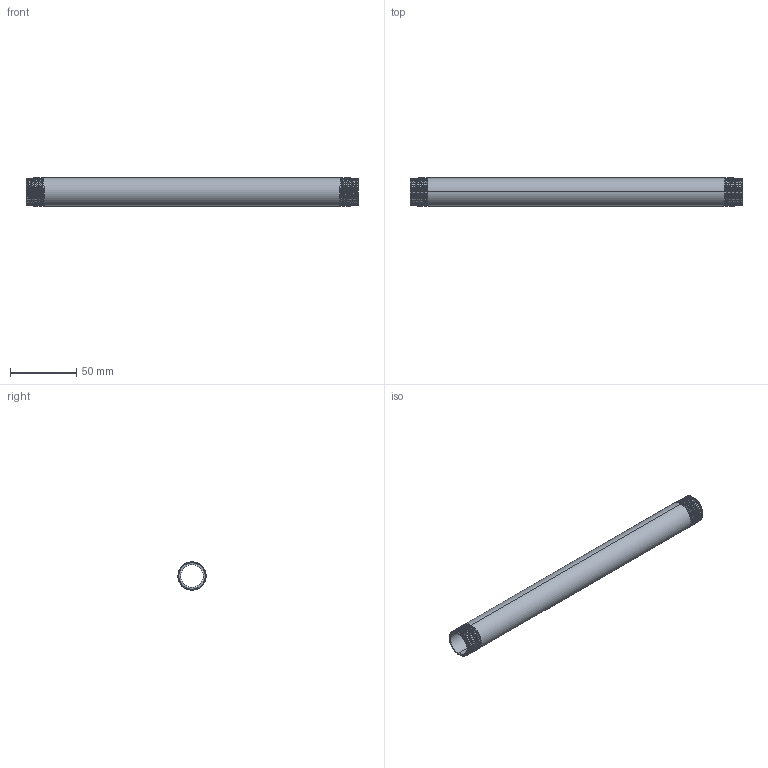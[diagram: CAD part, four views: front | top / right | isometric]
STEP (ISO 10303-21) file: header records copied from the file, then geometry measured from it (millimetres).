
FILE_DESCRIPTION (( 'STEP AP203' ), '1' );
FILE_NAME ('3D_R210_1-2x250_17185924.STEP', '2024-08-16T14:03:48', ( '' ), ( '' ), 'SwSTEP 2.0', 'SolidWorks 2024', '' );
FILE_SCHEMA (( 'CONFIG_CONTROL_DESIGN' ));
Length unit declared in the file: millimetre
Products named in the file (1): 3D_R210_1-2x250_17185924
Bounding box: 250 x 21.3 x 21.3 mm (x, y, z)
Volume: 29705 mm3; surface area: 31336.2 mm2
Topology: 1 solids, 1 shells, 72 faces, 202 edges, 132 vertices
Faces by surface type: cone 58, bspline 6, cylinder 4, plane 4
Entity records: 11263 total; most frequent: CARTESIAN_POINT 9585, ORIENTED_EDGE 404, DIRECTION 230, EDGE_CURVE 202, VERTEX_POINT 132, B_SPLINE_CURVE_WITH_KNOTS 112, AXIS2_PLACEMENT_3D 81, EDGE_LOOP 74
